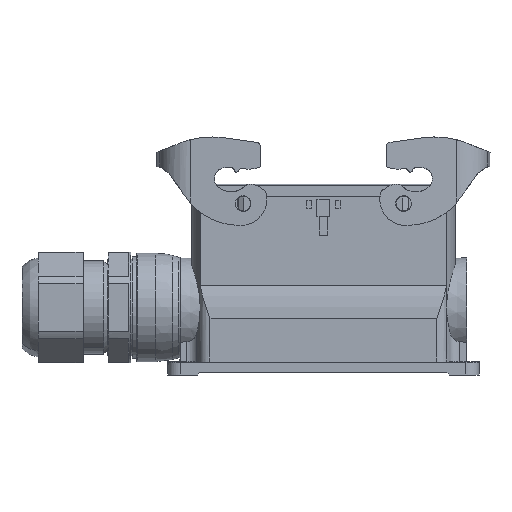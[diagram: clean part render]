
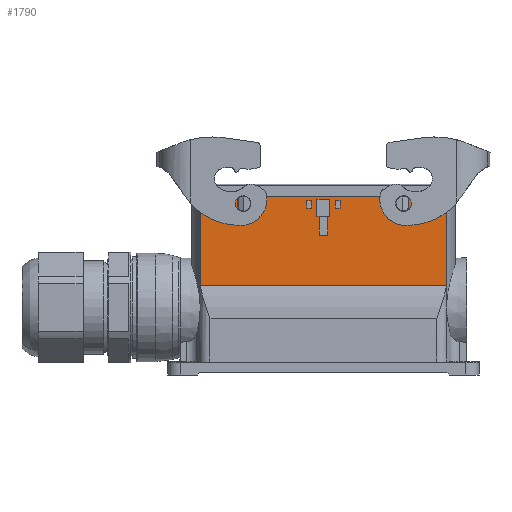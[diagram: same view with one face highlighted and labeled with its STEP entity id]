
A CAD part, front view. The second image highlights one B-rep face of the part: STEP entity #1790.
In plain terms, the highlighted planar face has unit normal (0, -1, 0).
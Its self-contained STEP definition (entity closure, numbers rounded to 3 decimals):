
#944=FACE_BOUND('',#3425,.T.);
#945=FACE_BOUND('',#3426,.T.);
#946=FACE_BOUND('',#3427,.T.);
#947=FACE_BOUND('',#3428,.T.);
#1247=PLANE('',#16167);
#1790=ADVANCED_FACE('',(#944,#945,#946,#947),#1247,.T.);
#3425=EDGE_LOOP('',(#6011,#6012,#6013,#6014,#6015,#6016,#6017,#6018,#6019,
#6020,#6021,#6022,#6023,#6024));
#3426=EDGE_LOOP('',(#6025,#6026,#6027,#6028));
#3427=EDGE_LOOP('',(#6029,#6030,#6031,#6032,#6033,#6034,#6035,#6036));
#3428=EDGE_LOOP('',(#6037,#6038,#6039,#6040));
#6011=ORIENTED_EDGE('',*,*,#10759,.F.);
#6012=ORIENTED_EDGE('',*,*,#10710,.F.);
#6013=ORIENTED_EDGE('',*,*,#10760,.T.);
#6014=ORIENTED_EDGE('',*,*,#10761,.T.);
#6015=ORIENTED_EDGE('',*,*,#10762,.F.);
#6016=ORIENTED_EDGE('',*,*,#10763,.T.);
#6017=ORIENTED_EDGE('',*,*,#10764,.T.);
#6018=ORIENTED_EDGE('',*,*,#10700,.F.);
#6019=ORIENTED_EDGE('',*,*,#10765,.F.);
#6020=ORIENTED_EDGE('',*,*,#10766,.F.);
#6021=ORIENTED_EDGE('',*,*,#10699,.F.);
#6022=ORIENTED_EDGE('',*,*,#10767,.T.);
#6023=ORIENTED_EDGE('',*,*,#10712,.F.);
#6024=ORIENTED_EDGE('',*,*,#10768,.F.);
#6025=ORIENTED_EDGE('',*,*,#10769,.F.);
#6026=ORIENTED_EDGE('',*,*,#10770,.F.);
#6027=ORIENTED_EDGE('',*,*,#10771,.F.);
#6028=ORIENTED_EDGE('',*,*,#10772,.F.);
#6029=ORIENTED_EDGE('',*,*,#10773,.T.);
#6030=ORIENTED_EDGE('',*,*,#10774,.T.);
#6031=ORIENTED_EDGE('',*,*,#10775,.T.);
#6032=ORIENTED_EDGE('',*,*,#10776,.T.);
#6033=ORIENTED_EDGE('',*,*,#10777,.T.);
#6034=ORIENTED_EDGE('',*,*,#10778,.T.);
#6035=ORIENTED_EDGE('',*,*,#10779,.T.);
#6036=ORIENTED_EDGE('',*,*,#10780,.T.);
#6037=ORIENTED_EDGE('',*,*,#10781,.F.);
#6038=ORIENTED_EDGE('',*,*,#10782,.F.);
#6039=ORIENTED_EDGE('',*,*,#10783,.F.);
#6040=ORIENTED_EDGE('',*,*,#10784,.F.);
#9041=VERTEX_POINT('',#23238);
#9044=VERTEX_POINT('',#23250);
#9045=VERTEX_POINT('',#23254);
#9046=VERTEX_POINT('',#23255);
#9053=VERTEX_POINT('',#23288);
#9054=VERTEX_POINT('',#23290);
#9055=VERTEX_POINT('',#23297);
#9056=VERTEX_POINT('',#23298);
#9092=VERTEX_POINT('',#23426);
#9093=VERTEX_POINT('',#23428);
#9094=VERTEX_POINT('',#23430);
#9095=VERTEX_POINT('',#23432);
#9096=VERTEX_POINT('',#23434);
#9097=VERTEX_POINT('',#23437);
#9098=VERTEX_POINT('',#23442);
#9099=VERTEX_POINT('',#23443);
#9100=VERTEX_POINT('',#23445);
#9101=VERTEX_POINT('',#23447);
#9102=VERTEX_POINT('',#23450);
#9103=VERTEX_POINT('',#23451);
#9104=VERTEX_POINT('',#23453);
#9105=VERTEX_POINT('',#23455);
#9106=VERTEX_POINT('',#23457);
#9107=VERTEX_POINT('',#23459);
#9108=VERTEX_POINT('',#23461);
#9109=VERTEX_POINT('',#23463);
#9110=VERTEX_POINT('',#23466);
#9111=VERTEX_POINT('',#23467);
#9112=VERTEX_POINT('',#23469);
#9113=VERTEX_POINT('',#23471);
#10699=EDGE_CURVE('',#9044,#9041,#12190,.T.);
#10700=EDGE_CURVE('',#9045,#9046,#12191,.T.);
#10710=EDGE_CURVE('',#9053,#9054,#12192,.T.);
#10712=EDGE_CURVE('',#9055,#9056,#12193,.T.);
#10759=EDGE_CURVE('',#9054,#9092,#13386,.T.);
#10760=EDGE_CURVE('',#9053,#9093,#13387,.T.);
#10761=EDGE_CURVE('',#9093,#9094,#13388,.T.);
#10762=EDGE_CURVE('',#9095,#9094,#13389,.T.);
#10763=EDGE_CURVE('',#9095,#9096,#13390,.T.);
#10764=EDGE_CURVE('',#9096,#9046,#13391,.T.);
#10765=EDGE_CURVE('',#9097,#9045,#13392,.T.);
#10766=EDGE_CURVE('',#9041,#9097,#12197,.T.);
#10767=EDGE_CURVE('',#9044,#9056,#13393,.T.);
#10768=EDGE_CURVE('',#9092,#9055,#12198,.T.);
#10769=EDGE_CURVE('',#9098,#9099,#13394,.T.);
#10770=EDGE_CURVE('',#9100,#9098,#13395,.T.);
#10771=EDGE_CURVE('',#9101,#9100,#13396,.T.);
#10772=EDGE_CURVE('',#9099,#9101,#13397,.T.);
#10773=EDGE_CURVE('',#9102,#9103,#13398,.T.);
#10774=EDGE_CURVE('',#9103,#9104,#13399,.T.);
#10775=EDGE_CURVE('',#9104,#9105,#13400,.T.);
#10776=EDGE_CURVE('',#9105,#9106,#13401,.T.);
#10777=EDGE_CURVE('',#9106,#9107,#13402,.T.);
#10778=EDGE_CURVE('',#9107,#9108,#13403,.T.);
#10779=EDGE_CURVE('',#9108,#9109,#13404,.T.);
#10780=EDGE_CURVE('',#9109,#9102,#13405,.T.);
#10781=EDGE_CURVE('',#9110,#9111,#13406,.T.);
#10782=EDGE_CURVE('',#9112,#9110,#13407,.T.);
#10783=EDGE_CURVE('',#9113,#9112,#13408,.T.);
#10784=EDGE_CURVE('',#9111,#9113,#13409,.T.);
#12190=CIRCLE('',#16134,3.5);
#12191=CIRCLE('',#16136,3.5);
#12192=CIRCLE('',#16142,3.5);
#12193=CIRCLE('',#16144,3.5);
#12197=CIRCLE('',#16165,2.4);
#12198=CIRCLE('',#16166,2.4);
#13386=LINE('',#23425,#14651);
#13387=LINE('',#23427,#14652);
#13388=LINE('',#23429,#14653);
#13389=LINE('',#23431,#14654);
#13390=LINE('',#23433,#14655);
#13391=LINE('',#23435,#14656);
#13392=LINE('',#23436,#14657);
#13393=LINE('',#23439,#14658);
#13394=LINE('',#23441,#14659);
#13395=LINE('',#23444,#14660);
#13396=LINE('',#23446,#14661);
#13397=LINE('',#23448,#14662);
#13398=LINE('',#23449,#14663);
#13399=LINE('',#23452,#14664);
#13400=LINE('',#23454,#14665);
#13401=LINE('',#23456,#14666);
#13402=LINE('',#23458,#14667);
#13403=LINE('',#23460,#14668);
#13404=LINE('',#23462,#14669);
#13405=LINE('',#23464,#14670);
#13406=LINE('',#23465,#14671);
#13407=LINE('',#23468,#14672);
#13408=LINE('',#23470,#14673);
#13409=LINE('',#23472,#14674);
#14651=VECTOR('',#18798,1.);
#14652=VECTOR('',#18799,1.);
#14653=VECTOR('',#18800,1.);
#14654=VECTOR('',#18801,1.);
#14655=VECTOR('',#18802,1.);
#14656=VECTOR('',#18803,1.);
#14657=VECTOR('',#18804,1.);
#14658=VECTOR('',#18807,1.);
#14659=VECTOR('',#18810,1.);
#14660=VECTOR('',#18811,1.);
#14661=VECTOR('',#18812,1.);
#14662=VECTOR('',#18813,1.);
#14663=VECTOR('',#18814,1.);
#14664=VECTOR('',#18815,1.);
#14665=VECTOR('',#18816,1.);
#14666=VECTOR('',#18817,1.);
#14667=VECTOR('',#18818,1.);
#14668=VECTOR('',#18819,1.);
#14669=VECTOR('',#18820,1.);
#14670=VECTOR('',#18821,1.);
#14671=VECTOR('',#18822,1.);
#14672=VECTOR('',#18823,1.);
#14673=VECTOR('',#18824,1.);
#14674=VECTOR('',#18825,1.);
#16134=AXIS2_PLACEMENT_3D('',#23251,#18705,#18706);
#16136=AXIS2_PLACEMENT_3D('',#23253,#18709,#18710);
#16142=AXIS2_PLACEMENT_3D('',#23289,#18724,#18725);
#16144=AXIS2_PLACEMENT_3D('',#23296,#18728,#18729);
#16165=AXIS2_PLACEMENT_3D('',#23438,#18805,#18806);
#16166=AXIS2_PLACEMENT_3D('',#23440,#18808,#18809);
#16167=AXIS2_PLACEMENT_3D('',#23473,#18826,#18827);
#18705=DIRECTION('',(0.,-1.,0.));
#18706=DIRECTION('',(1.,0.,0.));
#18709=DIRECTION('',(0.,-1.,0.));
#18710=DIRECTION('',(1.,0.,0.));
#18724=DIRECTION('',(0.,-1.,0.));
#18725=DIRECTION('',(1.,0.,0.));
#18728=DIRECTION('',(0.,-1.,0.));
#18729=DIRECTION('',(1.,0.,0.));
#18798=DIRECTION('',(0.,0.,-1.));
#18799=DIRECTION('',(-1.,0.,0.));
#18800=DIRECTION('',(0.,0.,-1.));
#18801=DIRECTION('',(-1.,0.,0.));
#18802=DIRECTION('',(0.,0.,1.));
#18803=DIRECTION('',(-1.,0.,0.));
#18804=DIRECTION('',(0.,0.,1.));
#18805=DIRECTION('',(0.,-1.,0.));
#18806=DIRECTION('',(1.,0.,0.));
#18807=DIRECTION('',(-1.,0.,0.));
#18808=DIRECTION('',(0.,-1.,0.));
#18809=DIRECTION('',(1.,0.,0.));
#18810=DIRECTION('',(0.,0.,1.));
#18811=DIRECTION('',(1.,0.,0.));
#18812=DIRECTION('',(0.,0.,-1.));
#18813=DIRECTION('',(-1.,0.,0.));
#18814=DIRECTION('',(0.017,0.,-1.));
#18815=DIRECTION('',(-1.,0.,0.));
#18816=DIRECTION('',(0.,0.,-1.));
#18817=DIRECTION('',(-1.,0.,0.));
#18818=DIRECTION('',(0.,0.,1.));
#18819=DIRECTION('',(-1.,0.,0.));
#18820=DIRECTION('',(0.017,0.,1.));
#18821=DIRECTION('',(1.,0.,0.));
#18822=DIRECTION('',(1.,0.,0.));
#18823=DIRECTION('',(0.,0.,-1.));
#18824=DIRECTION('',(-1.,0.,0.));
#18825=DIRECTION('',(0.,0.,1.));
#18826=DIRECTION('',(0.,-1.,0.));
#18827=DIRECTION('',(-1.,0.,0.));
#23238=CARTESIAN_POINT('',(37.,-22.5,-0.85));
#23250=CARTESIAN_POINT('',(35.283,-22.5,5.7));
#23251=CARTESIAN_POINT('',(37.,-22.5,2.65));
#23253=CARTESIAN_POINT('',(37.,-22.5,2.65));
#23254=CARTESIAN_POINT('',(39.4,-22.5,5.198));
#23255=CARTESIAN_POINT('',(38.717,-22.5,5.7));
#23288=CARTESIAN_POINT('',(-38.717,-22.5,5.7));
#23289=CARTESIAN_POINT('',(-37.,-22.5,2.65));
#23290=CARTESIAN_POINT('',(-39.4,-22.5,5.198));
#23296=CARTESIAN_POINT('',(-37.,-22.5,2.65));
#23297=CARTESIAN_POINT('',(-37.,-22.5,-0.85));
#23298=CARTESIAN_POINT('',(-35.283,-22.5,5.7));
#23425=CARTESIAN_POINT('',(-39.4,-22.5,2.65));
#23426=CARTESIAN_POINT('',(-39.4,-22.5,1.55));
#23427=CARTESIAN_POINT('',(0.,-22.5,5.7));
#23428=CARTESIAN_POINT('',(-56.85,-22.5,5.7));
#23429=CARTESIAN_POINT('',(-56.85,-22.5,5.7));
#23430=CARTESIAN_POINT('',(-56.85,-22.5,-35.001));
#23431=CARTESIAN_POINT('',(56.85,-22.5,-35.001));
#23432=CARTESIAN_POINT('',(56.85,-22.5,-35.001));
#23433=CARTESIAN_POINT('',(56.85,-22.5,5.7));
#23434=CARTESIAN_POINT('',(56.85,-22.5,5.7));
#23435=CARTESIAN_POINT('',(0.,-22.5,5.7));
#23436=CARTESIAN_POINT('',(39.4,-22.5,5.7));
#23437=CARTESIAN_POINT('',(39.4,-22.5,1.55));
#23438=CARTESIAN_POINT('',(37.,-22.5,1.55));
#23439=CARTESIAN_POINT('',(0.,-22.5,5.7));
#23440=CARTESIAN_POINT('',(-37.,-22.5,1.55));
#23441=CARTESIAN_POINT('',(-5.5,-22.5,5.7));
#23442=CARTESIAN_POINT('',(-5.5,-22.5,0.6));
#23443=CARTESIAN_POINT('',(-5.5,-22.5,4.));
#23444=CARTESIAN_POINT('',(-7.7,-22.5,0.6));
#23445=CARTESIAN_POINT('',(-7.7,-22.5,0.6));
#23446=CARTESIAN_POINT('',(-7.7,-22.5,4.));
#23447=CARTESIAN_POINT('',(-7.7,-22.5,4.));
#23448=CARTESIAN_POINT('',(-5.5,-22.5,4.));
#23449=CARTESIAN_POINT('',(2.047,-22.5,-5.964));
#23450=CARTESIAN_POINT('',(1.86,-22.5,4.75));
#23451=CARTESIAN_POINT('',(2.001,-22.5,-3.285));
#23452=CARTESIAN_POINT('',(0.,-22.5,-3.285));
#23453=CARTESIAN_POINT('',(2.,-22.5,-3.285));
#23454=CARTESIAN_POINT('',(2.,-22.5,-6.));
#23455=CARTESIAN_POINT('',(2.,-22.5,-11.95));
#23456=CARTESIAN_POINT('',(0.,-22.5,-11.95));
#23457=CARTESIAN_POINT('',(-2.,-22.5,-11.95));
#23458=CARTESIAN_POINT('',(-2.,-22.5,-6.));
#23459=CARTESIAN_POINT('',(-2.,-22.5,-3.285));
#23460=CARTESIAN_POINT('',(0.,-22.5,-3.285));
#23461=CARTESIAN_POINT('',(-2.001,-22.5,-3.285));
#23462=CARTESIAN_POINT('',(-2.047,-22.5,-5.964));
#23463=CARTESIAN_POINT('',(-1.86,-22.5,4.75));
#23464=CARTESIAN_POINT('',(-2.,-22.5,4.75));
#23465=CARTESIAN_POINT('',(5.5,-22.5,0.6));
#23466=CARTESIAN_POINT('',(5.5,-22.5,0.6));
#23467=CARTESIAN_POINT('',(7.7,-22.5,0.6));
#23468=CARTESIAN_POINT('',(5.5,-22.5,4.));
#23469=CARTESIAN_POINT('',(5.5,-22.5,4.));
#23470=CARTESIAN_POINT('',(7.7,-22.5,4.));
#23471=CARTESIAN_POINT('',(7.7,-22.5,4.));
#23472=CARTESIAN_POINT('',(7.7,-22.5,0.6));
#23473=CARTESIAN_POINT('',(0.,-22.5,5.7));
